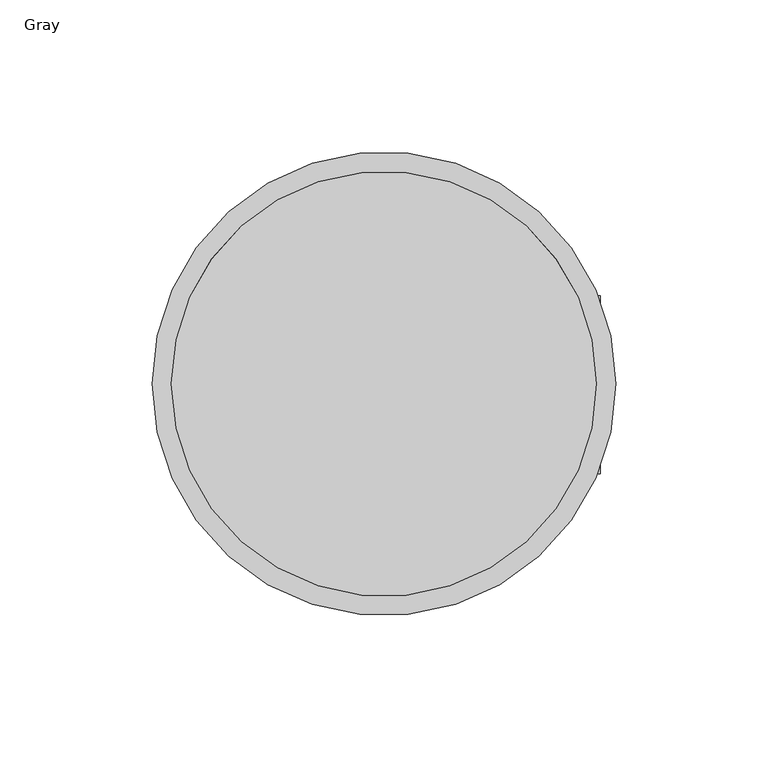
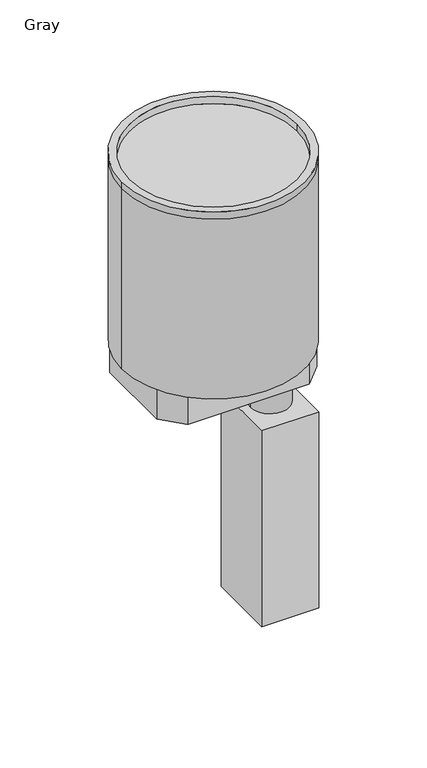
"""IFC4 building model written with IfcOpenShell, lengths in millimetres: proxy geometry, Poke_Thru-Evolution_6AT_Series-Wiremold-Furniture_Feed : Gray."""

from ifc_helpers import new_model, si_unit, point, frame, frame_2d, origin, origin_with_axes, place, context, project, spatial, polyline, circle_curve, trimmed, segment, composite_curve, outline, extrude, source, transform, mapped, element, save
from ifc_brep_helpers import plane_surface, cylinder_surface, revolved_surface, advanced_brep


def gray_52ef3976(model_context):
    return source(origin(), model_context, "Body", "SolidModel", [
        advanced_brep(
        [(69.85, 0.0, -6.35), (-69.85, 0.0, -6.35), (-76.2, 0.0, -165.1), (76.2, 0.0, -165.1), (76.2, 0.0, -6.35), (-76.2, 0.0, -6.35), (-76.2, 0.0, 0.0), (76.2, 0.0, 0.0), (-69.85, 0.0, 0.0), (69.85, 0.0, 0.0)],
        [
            (0, 1, circle_curve(frame((0.0, 0.0, -6.35), z_axis=(0.0, 0.0, 1.0), x_axis=(1.0, 0.0, 0.0)), 69.85)),
            (1, 0, circle_curve(frame((0.0, 0.0, -6.35), z_axis=(0.0, 0.0, 1.0), x_axis=(1.0, 0.0, 0.0)), 69.85)),
            (2, 3, circle_curve(frame((0.0, 0.0, -165.1), z_axis=(0.0, 0.0, -1.0), x_axis=(1.0, 0.0, 0.0)), 76.2)),
            (3, 2, circle_curve(frame((0.0, 0.0, -165.1), z_axis=(0.0, 0.0, -1.0), x_axis=(1.0, 0.0, 0.0)), 76.2)),
            (3, 4),
            (4, 5, circle_curve(frame((0.0, 0.0, -6.35), z_axis=(0.0, 0.0, -1.0), x_axis=(1.0, 0.0, 0.0)), 76.2)),
            (5, 2),
            (5, 4, circle_curve(frame((0.0, 0.0, -6.35), z_axis=(0.0, 0.0, -1.0), x_axis=(1.0, 0.0, 0.0)), 76.2)),
            (6, 7, circle_curve(origin_with_axes(), 76.2)),
            (7, 6, circle_curve(origin_with_axes(), 76.2)),
            (8, 9, circle_curve(frame((0.0, 0.0, 0.0), z_axis=(0.0, 0.0, -1.0), x_axis=(1.0, 0.0, 0.0)), 69.85)),
            (9, 8, circle_curve(frame((0.0, 0.0, 0.0), z_axis=(0.0, 0.0, -1.0), x_axis=(1.0, 0.0, 0.0)), 69.85)),
            (6, 5),
            (4, 7),
            (8, 1),
            (0, 9),
        ],
        [
            plane_surface(frame((76.2, 0.0, -6.35), z_axis=(0.0, 0.0, 1.0), x_axis=(0.0, 1.0, 0.0))),
            plane_surface(frame((76.2, 0.0, -165.1), z_axis=(0.0, 0.0, -1.0), x_axis=(0.0, -1.0, 0.0))),
            cylinder_surface(frame((0.0, 0.0, -165.1), z_axis=(0.0, 0.0, 1.0), x_axis=(1.0, 0.0, 0.0)), 76.2),
            plane_surface(frame((76.2, 0.0, 0.0), z_axis=(0.0, 0.0, 1.0), x_axis=(0.0, 1.0, 0.0))),
            cylinder_surface(frame((0.0, 0.0, -6.35), z_axis=(0.0, 0.0, 1.0), x_axis=(1.0, 0.0, 0.0)), 76.2),
            revolved_surface(polyline([(69.85, 0.0, -6.35), (69.85, 0.0, 0.0)]), (0.0, 0.0, 0.0), (0.0, 0.0, -1.0)),
        ],
        [
            (0, [[1, 2]]),
            (1, [[3, 4]]),
            (2, [[-4, 5, 6, 7]]),
            (2, [[-3, -7, 8, -5]]),
            (3, [[9, 10], [11, 12]]),
            (4, [[-9, 13, -6, 14]]),
            (4, [[-10, -14, -8, -13]]),
            (5, [[-11, 15, -1, 16]]),
            (5, [[-12, -16, -2, -15]]),
        ],
    ),
        extrude(outline(polyline([(50.8, 50.8), (66.675, 34.036), (66.675, -34.036), (50.8, -50.8), (-50.8, -50.8), (-66.675, -34.036), (-66.675, 34.036), (-50.8, 50.8), (50.8, 50.8)])), frame((0.0, 0.0, -192.1002), z_axis=(0.0, 0.0, 1.0), x_axis=(1.0, 0.0, 0.0)), (0.0, 0.0, 1.0), 27.0002),
        extrude(outline(composite_curve([segment(trimmed(circle_curve(frame_2d((47.244, 0.0)), 11.1252), [point((36.1188, 0.0))], [point((58.3692, 0.0))], False, "CARTESIAN"), True, "CONTINUOUS"), segment(trimmed(circle_curve(frame_2d((47.244, 0.0)), 11.1252), [point((58.3692, 0.0))], [point((36.1188, 0.0))], False, "CARTESIAN"), True, "CONTINUOUS")], self_intersect=False)), frame((0.0, 0.0, -217.5002), z_axis=(0.0, 0.0, 1.0), x_axis=(1.0, 0.0, 0.0)), (0.0, 0.0, 1.0), 25.4),
        extrude(outline(composite_curve([segment(trimmed(circle_curve(frame_2d((47.244, 0.0)), 16.0528), [point((31.1912, 0.0))], [point((63.2968, 0.0))], False, "CARTESIAN"), True, "CONTINUOUS"), segment(trimmed(circle_curve(frame_2d((47.244, 0.0)), 16.0528), [point((63.2968, 0.0))], [point((31.1912, 0.0))], False, "CARTESIAN"), True, "CONTINUOUS")], self_intersect=False)), frame((0.0, 0.0, -236.5502), z_axis=(0.0, 0.0, 1.0), x_axis=(1.0, 0.0, 0.0)), (0.0, 0.0, 1.0), 19.05),
        extrude(outline(polyline([(71.0438, 28.980332), (71.0438, -29.439668), (23.4442, -29.439668), (23.4442, 28.980332), (71.0438, 28.980332)])), frame((0.0, 0.0, -409.575), z_axis=(0.0, 0.0, 1.0), x_axis=(1.0, 0.0, 0.0)), (0.0, 0.0, 1.0), 173.0248),
    ])


if __name__ == "__main__":
    model = new_model("IFC4")
    model_context = context("Model", 3, world=origin())
    ifc_project = project(units=[si_unit("LENGTHUNIT", "METRE", prefix="MILLI")], contexts=[model_context])
    site = spatial("IfcSite", under=ifc_project)
    building = spatial("IfcBuilding", under=site)
    placement = place(None, origin())
    gray_shape = gray_52ef3976(model_context)
    element("IfcBuildingElementProxy", 1, Name="Poke_Thru-Evolution_6AT_Series-Wiremold-Furniture_Feed : Gray", ObjectType="Poke_Thru-Evolution_6AT_Series-Wiremold-Furniture_Feed : Gray", at=placement, inside=building, context=model_context, shape_type="MappedRepresentation", body=[
        mapped(gray_shape, transform((0.0, 0.0, 0.0), x_axis=(1.0, 0.0, 0.0), y_axis=(0.0, 1.0, 0.0), z_axis=(0.0, 0.0, 1.0))),
    ])
    save(model, "model.ifc")
